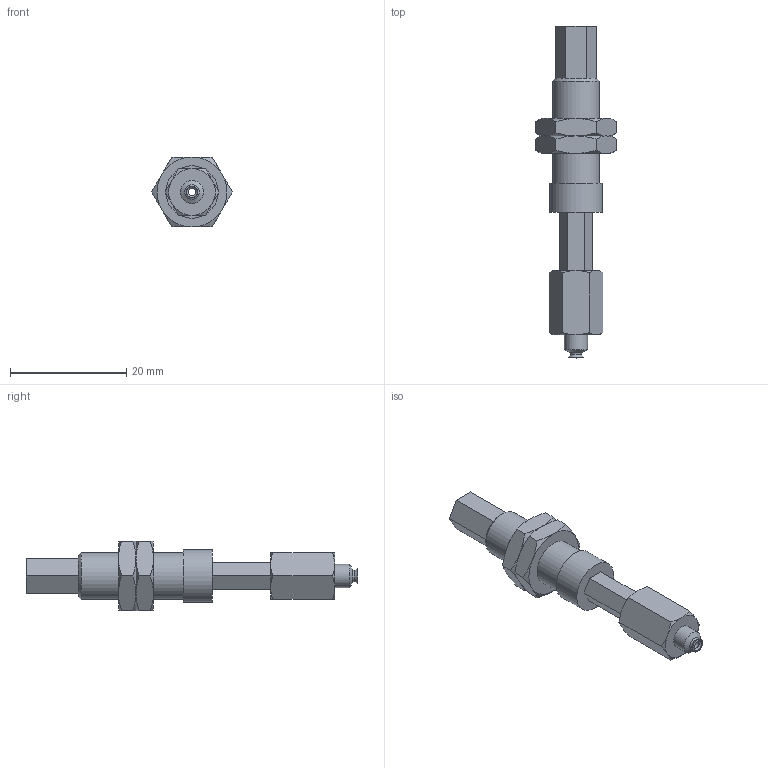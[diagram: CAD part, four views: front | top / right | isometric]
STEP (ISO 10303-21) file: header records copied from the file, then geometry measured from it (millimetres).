
FILE_DESCRIPTION(('STEP AP203'),'1');
FILE_NAME('.stp','2025-08-27T02:34:32',(' '),(' '),'Spatial InterOp 3D',' ',' ');
FILE_SCHEMA(('CONFIG_CONTROL_DESIGN'));
Length unit declared in the file: millimetre
Products named in the file (6): BNABPFTH-2A-10-※; ADAPTER; NAPFTH-2A-10-MBODY; Nut-2A-10-h; NAPFTH-2A-10-FBODY; BPFG-2A-※
Assembly tree (6 placements, depth 2):
  BNABPFTH-2A-10-※
    ADAPTER
    NAPFTH-2A-10-MBODY
    Nut-2A-10-h  x2
    NAPFTH-2A-10-FBODY
    BPFG-2A-※
Bounding box: 13.86 x 57 x 12 mm (x, y, z)
Volume: 2758.4 mm3; surface area: 3268.8 mm2
Topology: 6 solids, 6 shells, 121 faces, 260 edges, 157 vertices
Faces by surface type: plane 54, cone 46, cylinder 13, torus 7, bspline 1
Full cylindrical faces by diameter (mm): 1.2 x3, 2 x2, 2.459 x1, 3 x2, 4 x1, 7.188 x2, 8 x1, 9 x1
Entity records: 2967 total; most frequent: CARTESIAN_POINT 720, DIRECTION 400, ORIENTED_EDGE 354, EDGE_CURVE 177, AXIS2_PLACEMENT_3D 167, EDGE_LOOP 142, VERTEX_POINT 123, FACE_OUTER_BOUND 118
